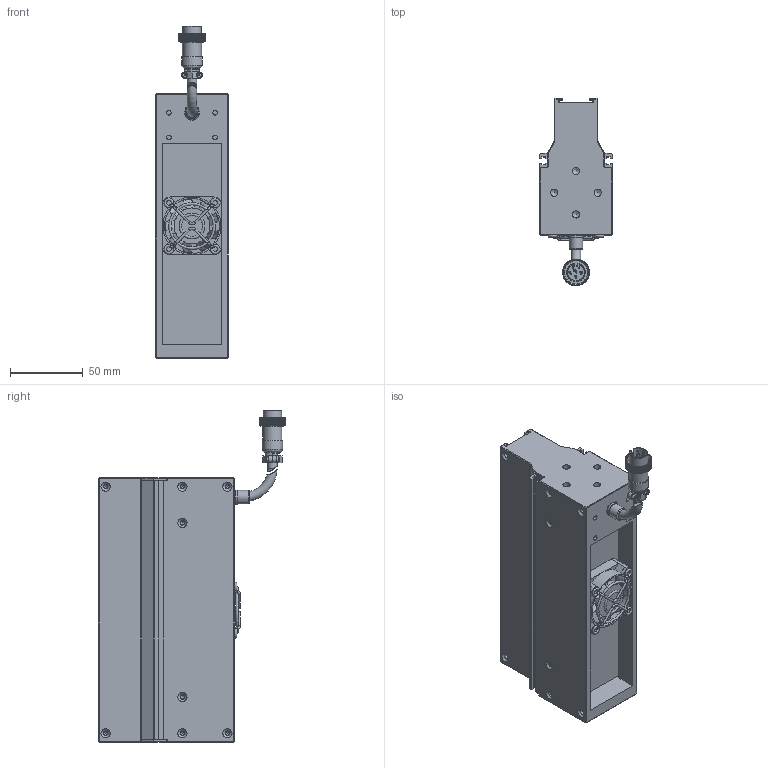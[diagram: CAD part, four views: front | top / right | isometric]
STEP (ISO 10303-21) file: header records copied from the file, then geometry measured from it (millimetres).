
FILE_DESCRIPTION (( 'STEP AP203' ), '1' );
FILE_NAME ('OPT-LSS182-R-V3.1尨砩芞.STEP', '2025-01-20T08:04:51', ( 'USER' ), ( '' ), 'SwSTEP 2.0', 'SolidWorks 2016', '' );
FILE_SCHEMA (( 'CONFIG_CONTROL_DESIGN' ));
Length unit declared in the file: millimetre
Products named in the file (2): OPT-LSS182-R-V3.1尨砩芞
Bounding box: 50 x 129.15 x 228.83 mm (x, y, z)
Volume: 611505.2 mm3; surface area: 103990.5 mm2
Topology: 9 solids, 17 shells, 3492 faces, 7698 edges, 4287 vertices
Faces by surface type: bspline 2086, cylinder 688, plane 606, torus 63, cone 49
Full cylindrical faces by diameter (mm): 0.95 x6, 1.1 x2, 1.4 x2, 1.6 x4, 2 x5, 2.5 x16, 3.2 x8, 3.4 x16, 3.5 x4, 5 x8, 6.2 x4, 6.4 x3, 7.5 x1, 8.6 x1, 9.3 x1, 9.8 x1, 10 x1, 13.2 x1, 14 x1, 16.1 x1, 24.8 x1, 38 x1
Entity records: 118288 total; most frequent: CARTESIAN_POINT 60924, ORIENTED_EDGE 14956, EDGE_CURVE 7478, B_SPLINE_CURVE_WITH_KNOTS 5447, DIRECTION 5300, VERTEX_POINT 4234, EDGE_LOOP 3734, FACE_OUTER_BOUND 3606
